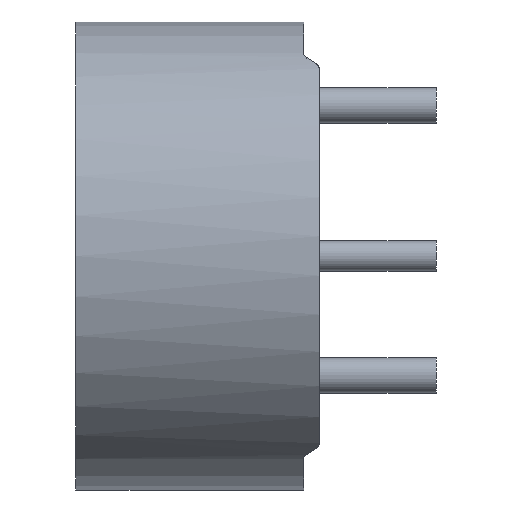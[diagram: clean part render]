
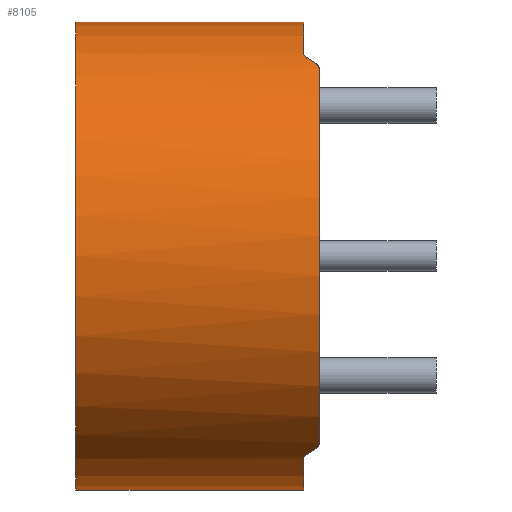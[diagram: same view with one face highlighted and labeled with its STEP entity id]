
A CAD part, left-side view. The second image highlights one B-rep face of the part: STEP entity #8105.
In plain terms, the highlighted cylindrical face has radius 19.05 mm (diameter 38.1 mm), a partial arc.
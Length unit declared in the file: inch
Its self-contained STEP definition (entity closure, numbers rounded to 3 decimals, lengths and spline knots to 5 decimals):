
#134 = CARTESIAN_POINT ( 'NONE',  ( -0.44237, -0.39, -0.60572 ) ) ;
#304 = ORIENTED_EDGE ( 'NONE', *, *, #4267, .T. ) ;
#339 = AXIS2_PLACEMENT_3D ( 'NONE', #3168, #3006, #8691 ) ;
#384 = ORIENTED_EDGE ( 'NONE', *, *, #4457, .T. ) ;
#464 = ORIENTED_EDGE ( 'NONE', *, *, #1045, .T. ) ;
#467 = EDGE_CURVE ( 'NONE', #2911, #3806, #9865, .T. ) ;
#841 = CIRCLE ( 'NONE', #3231, 0.75 ) ;
#890 = ORIENTED_EDGE ( 'NONE', *, *, #1761, .T. ) ;
#1045 = EDGE_CURVE ( 'NONE', #3806, #9124, #9680, .T. ) ;
#1140 = VERTEX_POINT ( 'NONE', #4462 ) ;
#1280 = CARTESIAN_POINT ( 'NONE',  ( 0., -0.34, 0.75 ) ) ;
#1748 = EDGE_CURVE ( 'NONE', #10215, #1140, #10049, .T. ) ;
#1761 = EDGE_CURVE ( 'NONE', #4085, #10379, #4335, .T. ) ;
#1796 = CARTESIAN_POINT ( 'NONE',  ( -0.44993, -0.39, -0.60006 ) ) ;
#1911 = CARTESIAN_POINT ( 'NONE',  ( -0.38274, -0.34073, -0.645 ) ) ;
#1974 = CIRCLE ( 'NONE', #3334, 0.75 ) ;
#1980 = ORIENTED_EDGE ( 'NONE', *, *, #3740, .T. ) ;
#1981 = CARTESIAN_POINT ( 'NONE',  ( -0.40728, -0.35978, -0.62991 ) ) ;
#1986 = B_SPLINE_CURVE_WITH_KNOTS ( 'NONE', 3,
 ( #10347, #9541, #1911, #2269, #3066, #8748 ),
 .UNSPECIFIED., .F., .F.,
 ( 4, 2, 4 ),
 ( 0., 0.00034, 0.00067 ),
 .UNSPECIFIED. ) ;
#2119 = CARTESIAN_POINT ( 'NONE',  ( 0., 0.39, 0.75 ) ) ;
#2269 = CARTESIAN_POINT ( 'NONE',  ( -0.38998, -0.34368, -0.64065 ) ) ;
#2722 = CARTESIAN_POINT ( 'NONE',  ( -0.44614, -0.39, 0.60289 ) ) ;
#2775 = CARTESIAN_POINT ( 'NONE',  ( 0., -0.34, 0. ) ) ;
#2778 = CARTESIAN_POINT ( 'NONE',  ( -0.44993, -0.39, 0.60006 ) ) ;
#2911 = VERTEX_POINT ( 'NONE', #3329 ) ;
#3006 = DIRECTION ( 'NONE',  ( 0., 1., 0. ) ) ;
#3066 = CARTESIAN_POINT ( 'NONE',  ( -0.39336, -0.34586, -0.63857 ) ) ;
#3168 = CARTESIAN_POINT ( 'NONE',  ( 0., 0.39, 0. ) ) ;
#3231 = AXIS2_PLACEMENT_3D ( 'NONE', #10095, #8506, #7662 ) ;
#3329 = CARTESIAN_POINT ( 'NONE',  ( -0.39629, -0.34879, -0.63675 ) ) ;
#3334 = AXIS2_PLACEMENT_3D ( 'NONE', #2775, #4582, #3788 ) ;
#3372 = B_SPLINE_CURVE_WITH_KNOTS ( 'NONE', 3,
 ( #8892, #5537, #8096, #9573 ),
 .UNSPECIFIED., .F., .F.,
 ( 4, 4 ),
 ( 0., 0.00068 ),
 .UNSPECIFIED. ) ;
#3487 = CIRCLE ( 'NONE', #5532, 0.75 ) ;
#3527 = CARTESIAN_POINT ( 'NONE',  ( -0.39629, -0.34879, 0.63675 ) ) ;
#3710 = VERTEX_POINT ( 'NONE', #5984 ) ;
#3713 = ORIENTED_EDGE ( 'NONE', *, *, #6874, .T. ) ;
#3740 = EDGE_CURVE ( 'NONE', #8709, #2911, #1986, .T. ) ;
#3788 = DIRECTION ( 'NONE',  ( 0., 0., 1. ) ) ;
#3806 = VERTEX_POINT ( 'NONE', #6251 ) ;
#4065 = CARTESIAN_POINT ( 'NONE',  ( 0., -0.39, 0. ) ) ;
#4085 = VERTEX_POINT ( 'NONE', #7565 ) ;
#4176 = ORIENTED_EDGE ( 'NONE', *, *, #7037, .T. ) ;
#4204 = CARTESIAN_POINT ( 'NONE',  ( -0.42871, -0.38121, -0.61539 ) ) ;
#4209 = DIRECTION ( 'NONE',  ( 0., -1., 0. ) ) ;
#4251 = LINE ( 'NONE', #7336, #9159 ) ;
#4267 = EDGE_CURVE ( 'NONE', #9124, #4085, #3487, .T. ) ;
#4332 = CARTESIAN_POINT ( 'NONE',  ( -0.40728, -0.35978, 0.62991 ) ) ;
#4335 = B_SPLINE_CURVE_WITH_KNOTS ( 'NONE', 3,
 ( #2778, #2722, #7771, #6966, #5958, #10209 ),
 .UNSPECIFIED., .F., .F.,
 ( 4, 2, 4 ),
 ( 0., 0.00036, 0.00071 ),
 .UNSPECIFIED. ) ;
#4456 = VERTEX_POINT ( 'NONE', #1280 ) ;
#4457 = EDGE_CURVE ( 'NONE', #1140, #8709, #1974, .T. ) ;
#4462 = CARTESIAN_POINT ( 'NONE',  ( 0., -0.34, -0.75 ) ) ;
#4531 = DIRECTION ( 'NONE',  ( 0., -1., 0. ) ) ;
#4582 = DIRECTION ( 'NONE',  ( 0., 1., 0. ) ) ;
#4788 = EDGE_CURVE ( 'NONE', #10379, #3710, #7021, .T. ) ;
#4870 = VECTOR ( 'NONE', #4531, 39.37008 ) ;
#5025 = VERTEX_POINT ( 'NONE', #6232 ) ;
#5140 = DIRECTION ( 'NONE',  ( 0., -1., 0. ) ) ;
#5320 = CARTESIAN_POINT ( 'NONE',  ( -0.39629, -0.34879, -0.63675 ) ) ;
#5371 = CARTESIAN_POINT ( 'NONE',  ( -0.44993, -0.39, -0.60006 ) ) ;
#5532 = AXIS2_PLACEMENT_3D ( 'NONE', #4065, #5696, #8946 ) ;
#5537 = CARTESIAN_POINT ( 'NONE',  ( -0.39045, -0.34295, 0.64039 ) ) ;
#5696 = DIRECTION ( 'NONE',  ( 0., 1., 0. ) ) ;
#5787 = FACE_OUTER_BOUND ( 'NONE', #7815, .T. ) ;
#5906 = AXIS2_PLACEMENT_3D ( 'NONE', #8236, #4209, #6679 ) ;
#5958 = CARTESIAN_POINT ( 'NONE',  ( -0.43173, -0.38423, 0.61329 ) ) ;
#5984 = CARTESIAN_POINT ( 'NONE',  ( -0.39629, -0.34879, 0.63675 ) ) ;
#6105 = EDGE_CURVE ( 'NONE', #10215, #8169, #9011, .T. ) ;
#6232 = CARTESIAN_POINT ( 'NONE',  ( -0.37507, -0.34, 0.64948 ) ) ;
#6251 = CARTESIAN_POINT ( 'NONE',  ( -0.42871, -0.38121, -0.61539 ) ) ;
#6641 = CARTESIAN_POINT ( 'NONE',  ( -0.42871, -0.38121, 0.61539 ) ) ;
#6643 = CARTESIAN_POINT ( 'NONE',  ( -0.37507, -0.34, -0.64948 ) ) ;
#6679 = DIRECTION ( 'NONE',  ( 0., 0., -1. ) ) ;
#6874 = EDGE_CURVE ( 'NONE', #3710, #5025, #3372, .T. ) ;
#6960 = ORIENTED_EDGE ( 'NONE', *, *, #7248, .F. ) ;
#6966 = CARTESIAN_POINT ( 'NONE',  ( -0.43514, -0.3864, 0.61088 ) ) ;
#7011 = ORIENTED_EDGE ( 'NONE', *, *, #4788, .T. ) ;
#7021 =( BOUNDED_CURVE ( )  B_SPLINE_CURVE ( 3, ( #9210, #7515, #4332, #3527 ),
 .UNSPECIFIED., .F., .F. ) 
 B_SPLINE_CURVE_WITH_KNOTS ( ( 4, 4 ),
 ( 0.96232, 1.0141 ),
 .UNSPECIFIED. ) 
 CURVE ( )  GEOMETRIC_REPRESENTATION_ITEM ( )  RATIONAL_B_SPLINE_CURVE ( ( 1., 1., 1., 1. ) ) 
 REPRESENTATION_ITEM ( '' )  );
#7037 = EDGE_CURVE ( 'NONE', #5025, #4456, #841, .T. ) ;
#7248 = EDGE_CURVE ( 'NONE', #8169, #4456, #4251, .T. ) ;
#7336 = CARTESIAN_POINT ( 'NONE',  ( 0., 0.39, 0.75 ) ) ;
#7359 = ORIENTED_EDGE ( 'NONE', *, *, #1748, .T. ) ;
#7435 = CARTESIAN_POINT ( 'NONE',  ( -0.43472, -0.38722, -0.6112 ) ) ;
#7515 = CARTESIAN_POINT ( 'NONE',  ( -0.41809, -0.37059, 0.62279 ) ) ;
#7565 = CARTESIAN_POINT ( 'NONE',  ( -0.44993, -0.39, 0.60006 ) ) ;
#7612 = CARTESIAN_POINT ( 'NONE',  ( 0., 0.39, -0.75 ) ) ;
#7662 = DIRECTION ( 'NONE',  ( 0., 0., 1. ) ) ;
#7771 = CARTESIAN_POINT ( 'NONE',  ( -0.44242, -0.38931, 0.60563 ) ) ;
#7777 = CARTESIAN_POINT ( 'NONE',  ( -0.41809, -0.37059, -0.62279 ) ) ;
#7815 = EDGE_LOOP ( 'NONE', ( #6960, #10183, #7359, #384, #1980, #9387, #464, #304, #890, #7011, #3713, #4176 ) ) ;
#8096 = CARTESIAN_POINT ( 'NONE',  ( -0.38287, -0.34, 0.64498 ) ) ;
#8105 = ADVANCED_FACE ( 'NONE', ( #5787 ), #8340, .T. ) ;
#8169 = VERTEX_POINT ( 'NONE', #2119 ) ;
#8236 = CARTESIAN_POINT ( 'NONE',  ( 0., 0.39, 0. ) ) ;
#8340 = CYLINDRICAL_SURFACE ( 'NONE', #5906, 0.75 ) ;
#8506 = DIRECTION ( 'NONE',  ( 0., 1., 0. ) ) ;
#8691 = DIRECTION ( 'NONE',  ( 0., 0., 1. ) ) ;
#8709 = VERTEX_POINT ( 'NONE', #6643 ) ;
#8748 = CARTESIAN_POINT ( 'NONE',  ( -0.39629, -0.34879, -0.63675 ) ) ;
#8892 = CARTESIAN_POINT ( 'NONE',  ( -0.39629, -0.34879, 0.63675 ) ) ;
#8946 = DIRECTION ( 'NONE',  ( 0., 0., 1. ) ) ;
#9011 = CIRCLE ( 'NONE', #339, 0.75 ) ;
#9124 = VERTEX_POINT ( 'NONE', #5371 ) ;
#9159 = VECTOR ( 'NONE', #5140, 39.37008 ) ;
#9210 = CARTESIAN_POINT ( 'NONE',  ( -0.42871, -0.38121, 0.61539 ) ) ;
#9387 = ORIENTED_EDGE ( 'NONE', *, *, #467, .T. ) ;
#9415 = CARTESIAN_POINT ( 'NONE',  ( -0.42871, -0.38121, -0.61539 ) ) ;
#9541 = CARTESIAN_POINT ( 'NONE',  ( -0.37898, -0.34, -0.64722 ) ) ;
#9573 = CARTESIAN_POINT ( 'NONE',  ( -0.37507, -0.34, 0.64948 ) ) ;
#9680 = B_SPLINE_CURVE_WITH_KNOTS ( 'NONE', 3,
 ( #4204, #7435, #134, #1796 ),
 .UNSPECIFIED., .F., .F.,
 ( 4, 4 ),
 ( 0., 0.00071 ),
 .UNSPECIFIED. ) ;
#9865 =( BOUNDED_CURVE ( )  B_SPLINE_CURVE ( 3, ( #5320, #1981, #7777, #9415 ),
 .UNSPECIFIED., .F., .F. ) 
 B_SPLINE_CURVE_WITH_KNOTS ( ( 4, 4 ),
 ( 5.26908, 5.32086 ),
 .UNSPECIFIED. ) 
 CURVE ( )  GEOMETRIC_REPRESENTATION_ITEM ( )  RATIONAL_B_SPLINE_CURVE ( ( 1., 1., 1., 1. ) ) 
 REPRESENTATION_ITEM ( '' )  );
#10049 = LINE ( 'NONE', #7612, #4870 ) ;
#10095 = CARTESIAN_POINT ( 'NONE',  ( 0., -0.34, 0. ) ) ;
#10183 = ORIENTED_EDGE ( 'NONE', *, *, #6105, .F. ) ;
#10209 = CARTESIAN_POINT ( 'NONE',  ( -0.42871, -0.38121, 0.61539 ) ) ;
#10215 = VERTEX_POINT ( 'NONE', #10378 ) ;
#10347 = CARTESIAN_POINT ( 'NONE',  ( -0.37507, -0.34, -0.64948 ) ) ;
#10378 = CARTESIAN_POINT ( 'NONE',  ( 0., 0.39, -0.75 ) ) ;
#10379 = VERTEX_POINT ( 'NONE', #6641 ) ;
